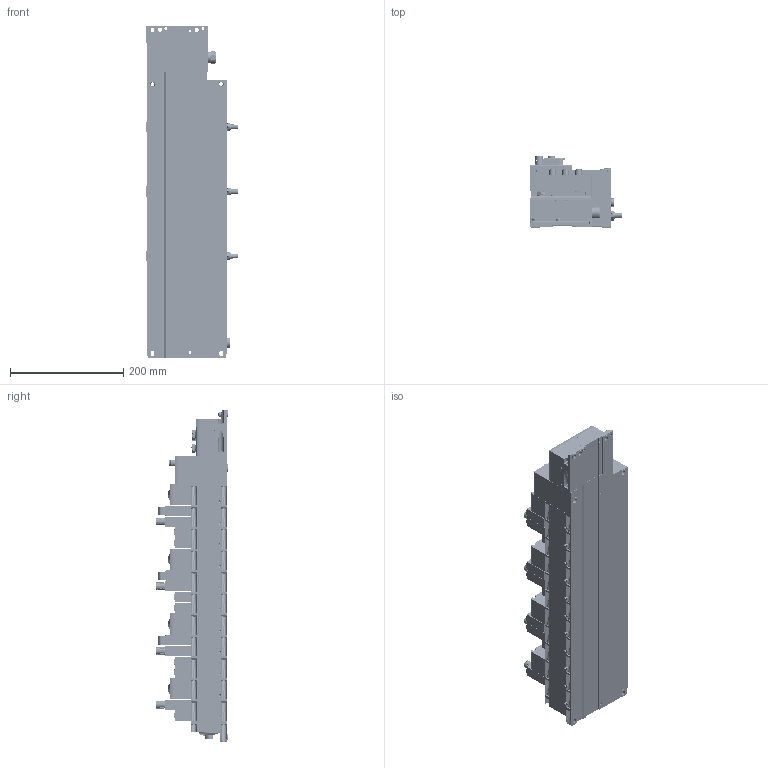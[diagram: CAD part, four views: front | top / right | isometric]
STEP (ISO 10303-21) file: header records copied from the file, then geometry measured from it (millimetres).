
FILE_DESCRIPTION( ( 'STEP AP214' ), '1' );
FILE_NAME( 'p:/temp/worker_764/temp/exporttempdir_596_72_BSHcp/format_0/8073100_51E-F36GCQP-RB.stp', '2020-08-10T11:51:21', ( 'License CC BY-ND 4.0' ), ( 'CADENAS' ), ' ', 'PARTsolutions', ' ' );
FILE_SCHEMA( ( 'AUTOMOTIVE_DESIGN { 1 0 10303 214 1 1 1 1 }' ) );
Length unit declared in the file: millimetre
Products named in the file (22): 8073100 51E-F36GCQP-RB 46P-B-YS-UYLNGWOGWYBAYQLUSWYLNGWOGWYBAYQLUSWYLNGWOGWYBAUWYLNGWOGWYQLA-CSJLLCSJLLCSJLLJL; HI_8082878 VABA-S6-1-X2-3V-CB---(EPL); HI_8092506 VABF-S6-1-P1A7-G12-CB---(VT46); HI_676829 VNIA-99-ZW-AD-PI-DECKEL---(VT46); _8068913 VABV-S4-2HS-G18-CB-2T5---(VKPL_0); _3568 B-1/8---(VCB); HI_8066569 VSVA-BT-M32CS1-MYE-A2-1T5L-PA---(VT4617); _1205860 AMTE-M-LH-G18---(VCB); HI_8033450 VSVA-B-B52-ZTR-A2-1T1L---(VT462); _4105147 VAMC-B-S6-CTR---(vtsa_kappe); _8067932 VABV-S4-2HS-G18-CB-2T2---(VKPL_0); HI_539213 VABB-S4-2-WT---(VT465); HI_8104044 VABF-S6-1-P8A7-G12-CB1---(VT46); HI_8090343 VABF-S6-1-P8A7-G12-CB-DECKEL---(VT46); HI_8104042 VABF-S6-1-P8A7-G12-CB---(VT46); _539238 VABE-S6-1RZ-G-B1---(PL); _3569 B-1/4---(VCBE); HI_550212 CPX-M-EPL-EV---(EPL_51E); HI_550208 CPX-M-GE-EV-S-7/8-5POL---(EV); HI_1912451 CPX-FB36---(EA); _533334 AK-SUB-9/15-B---(A); _165592 ISK-M12
Assembly tree (52 placements, depth 2):
  8073100 51E-F36GCQP-RB 46P-B-YS-UYLNGWOGWYBAYQLUSWYLNGWOGWYBAYQLUSWYLNGWOGWYBAUWYLNGWOGWYQLA-CSJLLCSJLLCSJLLJL
    HI_8082878 VABA-S6-1-X2-3V-CB---(EPL)
    HI_8092506 VABF-S6-1-P1A7-G12-CB---(VT46)
    HI_676829 VNIA-99-ZW-AD-PI-DECKEL---(VT46)
    _8068913 VABV-S4-2HS-G18-CB-2T5---(VKPL_0)  x3
    _3568 B-1/8---(VCB)  x3
    HI_8066569 VSVA-BT-M32CS1-MYE-A2-1T5L-PA---(VT4617)  x3
    _1205860 AMTE-M-LH-G18---(VCB)  x3
    HI_8033450 VSVA-B-B52-ZTR-A2-1T1L---(VT462)  x4
    _4105147 VAMC-B-S6-CTR---(vtsa_kappe)  x8
    _8067932 VABV-S4-2HS-G18-CB-2T2---(VKPL_0)  x4
    HI_539213 VABB-S4-2-WT---(VT465)  x7
    HI_8104044 VABF-S6-1-P8A7-G12-CB1---(VT46)  x2
    HI_8090343 VABF-S6-1-P8A7-G12-CB-DECKEL---(VT46)  x3
    HI_8104042 VABF-S6-1-P8A7-G12-CB---(VT46)
    _539238 VABE-S6-1RZ-G-B1---(PL)
    _3569 B-1/4---(VCBE)
    HI_550212 CPX-M-EPL-EV---(EPL_51E)
    HI_550208 CPX-M-GE-EV-S-7/8-5POL---(EV)
    HI_1912451 CPX-FB36---(EA)
    _533334 AK-SUB-9/15-B---(A)
    _165592 ISK-M12  x2
Bounding box: 161.2 x 126.04 x 585.8 mm (x, y, z)
Volume: 6282518.6 mm3; surface area: 976729.8 mm2
Topology: 52 solids, 52 shells, 6039 faces, 15635 edges, 10249 vertices
Faces by surface type: plane 3512, cylinder 1862, cone 582, torus 63, bspline 17, sphere 3
Full cylindrical faces by diameter (mm): 1 x15, 1.1 x8, 1.5 x5, 2 x5, 2.459 x4, 2.7 x2, 2.8 x6, 3 x2, 3.2 x14, 3.242 x54, 3.3 x22, 3.4 x10, 4 x23, 4.05 x2, 4.134 x71, 4.3 x17, 4.5 x1, 5 x44, 5.2 x48, 5.5 x4, 5.6 x2, 5.8 x8, 6 x17, 6.4 x5, 6.5 x3, 6.6 x9, 7.5 x8, 7.6 x14, 8 x10, 8.2 x7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
Entity records: 99223 total; most frequent: CARTESIAN_POINT 14956, DIRECTION 13338, ORIENTED_EDGE 11880, EDGE_CURVE 5940, AXIS2_PLACEMENT_3D 4880, VERTEX_POINT 4281, EDGE_LOOP 3677, LINE 3578
